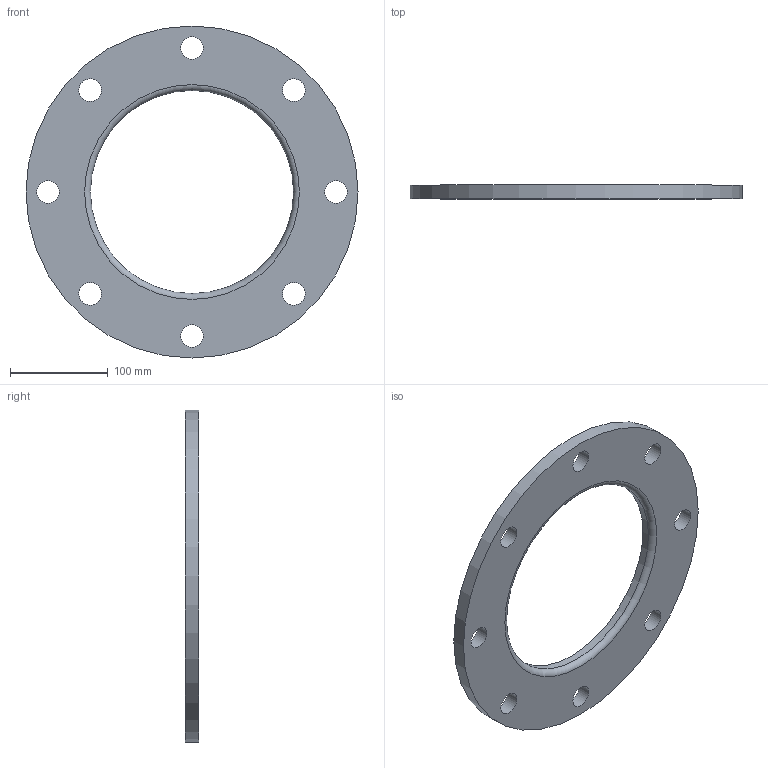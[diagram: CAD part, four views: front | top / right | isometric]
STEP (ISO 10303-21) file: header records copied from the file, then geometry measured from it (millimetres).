
FILE_DESCRIPTION(/* description */ (''),/* implementation_level */ '2;1');
FILE_NAME(/* name */ 'Z:\Geberit\Export\NewStep\370745.stp',/* time_stamp */ '2014-04-02T08:04:33+02:00',/* author */ ('nelson'),/* organization */ (''),/* preprocessor_version */ 'ST-DEVELOPER v15.2',/* originating_system */ 'Autodesk Inventor 2014',/* authorisation */ '');
FILE_SCHEMA (('AUTOMOTIVE_DESIGN { 1 0 10303 214 3 1 1 }'));
Length unit declared in the file: millimetre
Products named in the file (1): 370745
Bounding box: 340 x 14 x 340 mm (x, y, z)
Volume: 743729.2 mm3; surface area: 137505.8 mm2
Topology: 1 solids, 1 shells, 13 faces, 32 edges, 21 vertices
Faces by surface type: cylinder 10, plane 2, torus 1
Full cylindrical faces by diameter (mm): 23 x8, 208 x1, 340 x1
Entity records: 401 total; most frequent: DIRECTION 70, CARTESIAN_POINT 56, EDGE_LOOP 42, ORIENTED_EDGE 42, AXIS2_PLACEMENT_3D 35, FACE_BOUND 30, CIRCLE 21, VERTEX_POINT 21
